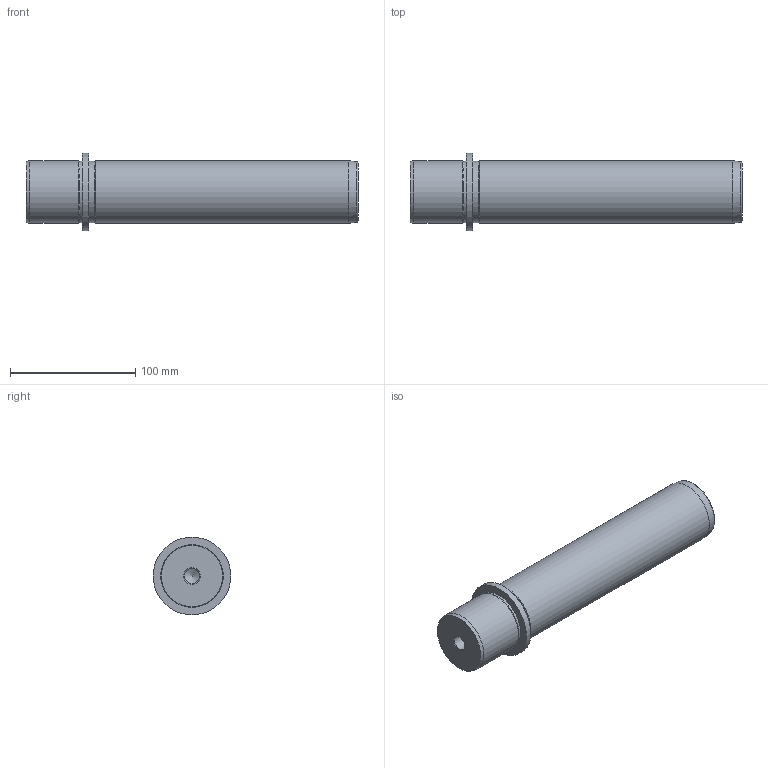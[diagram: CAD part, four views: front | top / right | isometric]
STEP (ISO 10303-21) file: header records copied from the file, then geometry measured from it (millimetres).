
FILE_DESCRIPTION(/* description */ ('Impex Ready, www.impex-ready.pl'),/* implementation_level */ '2;1');
FILE_NAME(/* name */ 'C:\Users\VIKKY\Nextcloud\SM\projekt 10 - części na stronę internetową\Pliki_3D_new\292 Słupy CE\292_CE_STEP\CE50220.ipt.step',/* time_stamp */ '2021-12-17T13:43:44+01:00',/* author */ ('SM'),/* organization */ (''),/* preprocessor_version */ 'ST-DEVELOPER v18.1',/* originating_system */ 'Autodesk Inventor 2021',/* authorisation */ '');
FILE_SCHEMA (('AUTOMOTIVE_DESIGN { 1 0 10303 214 3 1 1 }'));
Length unit declared in the file: millimetre
Products named in the file (1): CE50220
Bounding box: 265 x 62 x 62 mm (x, y, z)
Volume: 521183.6 mm3; surface area: 48720.7 mm2
Topology: 1 solids, 1 shells, 17 faces, 31 edges, 18 vertices
Faces by surface type: cone 6, cylinder 6, plane 4, torus 1
Full cylindrical faces by diameter (mm): 12 x1, 49 x2, 50 x2, 62 x1
Entity records: 508 total; most frequent: DIRECTION 84, CARTESIAN_POINT 66, ORIENTED_EDGE 60, AXIS2_PLACEMENT_3D 36, EDGE_CURVE 30, EDGE_LOOP 20, CIRCLE 18, VERTEX_POINT 18
